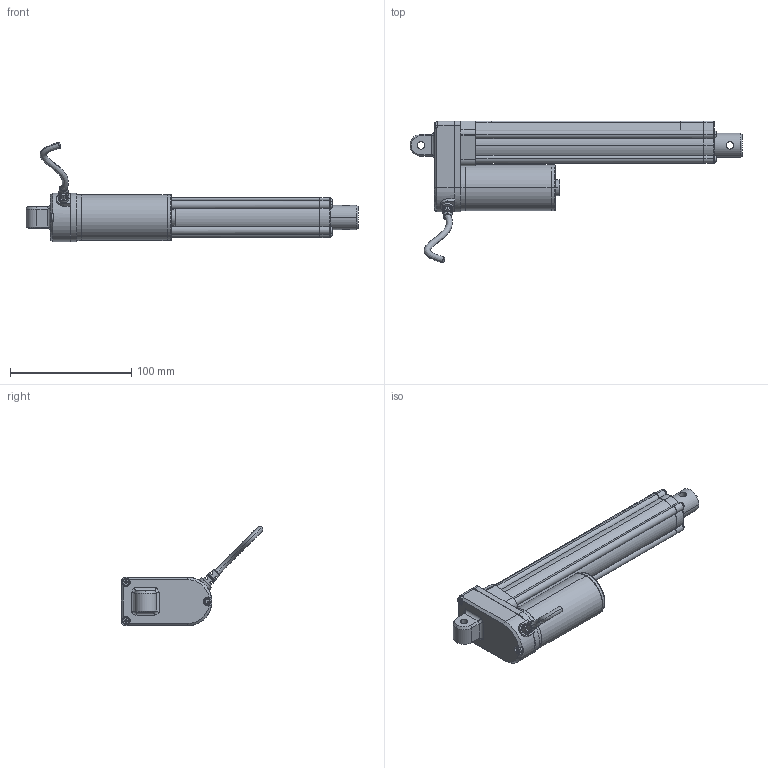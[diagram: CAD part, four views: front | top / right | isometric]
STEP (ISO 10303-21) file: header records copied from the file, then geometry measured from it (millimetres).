
FILE_DESCRIPTION(('STEP AP203'),'1');
FILE_NAME('dj806b1150255b0f011r01111111a01230619165856.stp','2025-06-19T16:58:59',('TraceParts'),('TraceParts S.A.'),'Spatial InterOp 3D',' ',' ');
FILE_SCHEMA(('CONFIG_CONTROL_DESIGN'));
Length unit declared in the file: millimetre
Products named in the file (1): 1
Bounding box: 274 x 117.13 x 82.13 mm (x, y, z)
Volume: 361476.5 mm3; surface area: 51654.2 mm2
Topology: 1 solids, 1 shells, 365 faces, 995 edges, 645 vertices
Faces by surface type: plane 194, cylinder 109, bspline 40, cone 14, torus 8
Entity records: 13567 total; most frequent: CARTESIAN_POINT 4670, ORIENTED_EDGE 1982, DIRECTION 1707, EDGE_CURVE 991, VERTEX_POINT 645, AXIS2_PLACEMENT_3D 597, LINE 513, VECTOR 513
